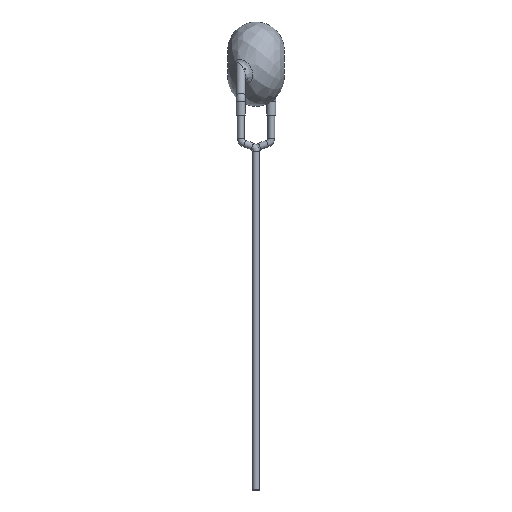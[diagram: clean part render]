
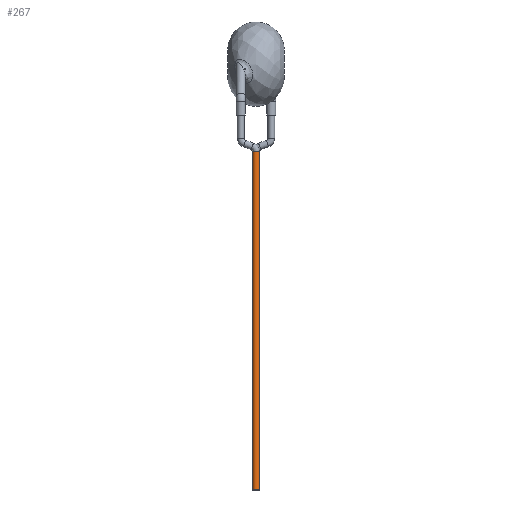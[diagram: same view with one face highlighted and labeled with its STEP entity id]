
A CAD part, left-side view. The second image highlights one B-rep face of the part: STEP entity #267.
In plain terms, the highlighted cylindrical face has radius 0.3 mm (diameter 0.6 mm), a full revolution.
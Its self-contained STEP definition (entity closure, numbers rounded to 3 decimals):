
#236=CARTESIAN_POINT('',(-6.25,1.05,-7.75));
#237=VERTEX_POINT('',#236);
#238=CARTESIAN_POINT('',(-6.25,0.75,-7.75));
#239=DIRECTION('',(0.0,0.0,-1.0));
#240=DIRECTION('',(0.0,-1.0,0.0));
#241=AXIS2_PLACEMENT_3D('',#238,#239,#240);
#242=CIRCLE('',#241,0.3);
#243=EDGE_CURVE('',#237,#237,#242,.T.);
#248=CARTESIAN_POINT('',(-6.25,0.75,-37.75));
#249=DIRECTION('',(0.,0.0,1.0));
#250=DIRECTION('',(0.0,-1.0,0.0));
#251=AXIS2_PLACEMENT_3D('',#248,#249,#250);
#252=CYLINDRICAL_SURFACE('',#251,0.3);
#253=ORIENTED_EDGE('',*,*,#243,.T.);
#254=EDGE_LOOP('',(#253));
#255=FACE_OUTER_BOUND('',#254,.T.);
#256=CARTESIAN_POINT('',(-6.25,1.05,-37.75));
#257=VERTEX_POINT('',#256);
#258=CARTESIAN_POINT('',(-6.25,0.75,-37.75));
#259=DIRECTION('',(0.0,0.0,-1.0));
#260=DIRECTION('',(0.0,-1.0,0.0));
#261=AXIS2_PLACEMENT_3D('',#258,#259,#260);
#262=CIRCLE('',#261,0.3);
#263=EDGE_CURVE('',#257,#257,#262,.T.);
#264=ORIENTED_EDGE('',*,*,#263,.F.);
#265=EDGE_LOOP('',(#264));
#266=FACE_BOUND('',#265,.T.);
#267=ADVANCED_FACE('',(#255,#266),#252,.T.);
